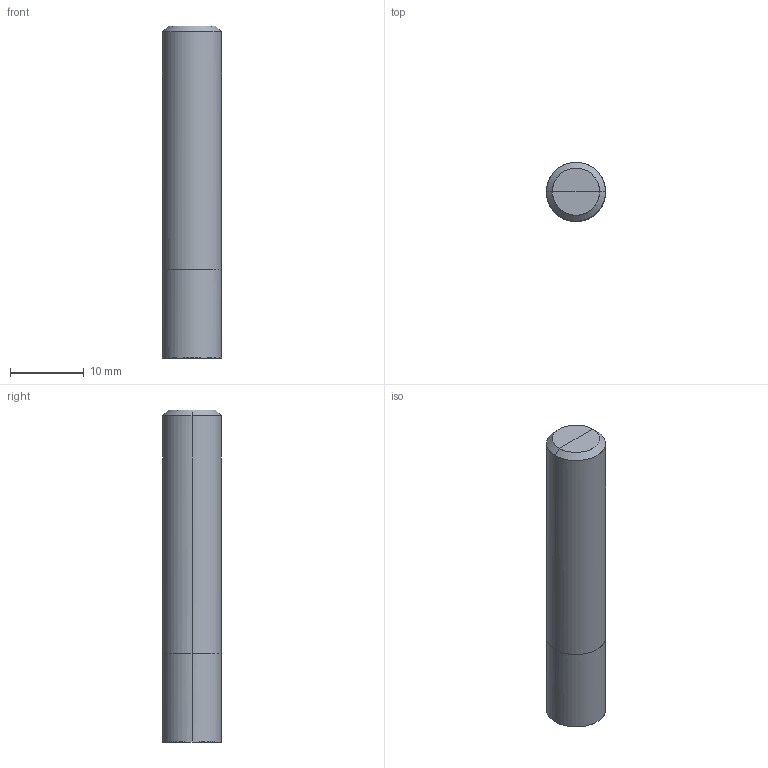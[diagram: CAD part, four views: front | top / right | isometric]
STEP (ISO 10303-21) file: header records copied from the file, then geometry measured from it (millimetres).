
FILE_DESCRIPTION(/* description */ (''),/* implementation_level */ '2;1');
FILE_NAME(/*name*/ '5031-8F',/*time_stamp*/'2021-4-28T11:25:58',/*author*/ ('ISBE GmbH'),/*organization*/ ('ISBE GmbH'),/*preprocessor_version*/ 'STEP IO v1.0',/*originating_system*/ '',/*authorisation*/ '');
FILE_SCHEMA (('AUTOMOTIVE_DESIGN'));
Length unit declared in the file: millimetre
Products named in the file (1): Document
Bounding box: 8 x 7.99 x 45 mm (x, y, z)
Surface area: 1321.3 mm2 (no closed solid volume)
Topology: 0 solids, 14 shells, 14 faces, 61 edges, 58 vertices
Faces by surface type: bspline 14
Entity records: 1173 total; most frequent: CARTESIAN_POINT 896, VERTEX_POINT 48, EDGE_CURVE 48, ORIENTED_EDGE 48, DIRECTION 16, EDGE_LOOP 14, FACE_OUTER_BOUND 14, ADVANCED_FACE 14
